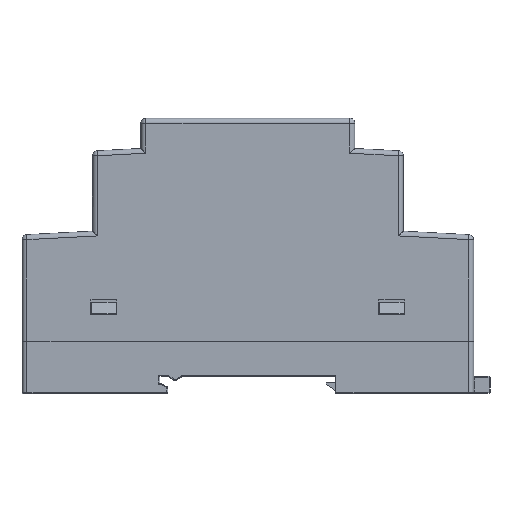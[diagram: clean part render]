
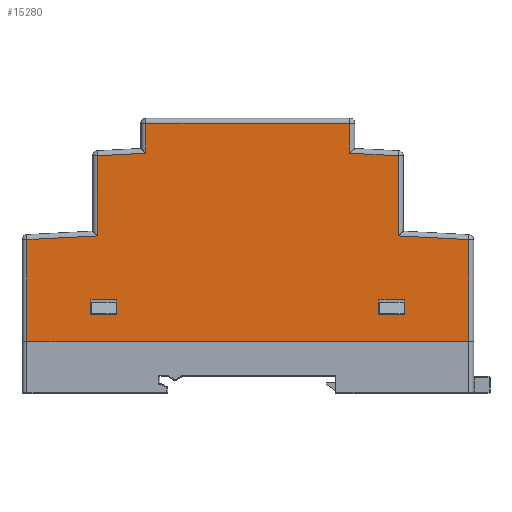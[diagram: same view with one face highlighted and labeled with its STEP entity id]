
A CAD part, left-side view. The second image highlights one B-rep face of the part: STEP entity #15280.
In plain terms, the highlighted planar face has unit normal (-1, 0, 0).
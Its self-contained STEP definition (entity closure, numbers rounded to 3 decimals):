
#8173=DIRECTION('',(0.,0.,-1.));
#8174=VECTOR('',#8173,89.);
#8175=CARTESIAN_POINT('',(-18.,0.,44.5));
#8176=LINE('',#8175,#8174);
#8180=DIRECTION('',(0.,0.052,0.999));
#8181=VECTOR('',#8180,14.219);
#8182=CARTESIAN_POINT('',(-18.,20.551,-44.5));
#8183=LINE('',#8182,#8181);
#8187=DIRECTION('',(0.,0.052,0.999));
#8188=VECTOR('',#8187,9.763);
#8189=CARTESIAN_POINT('',(-18.,37.451,-30.3));
#8190=LINE('',#8189,#8188);
#8194=DIRECTION('',(0.,-0.052,0.999));
#8195=VECTOR('',#8194,9.763);
#8196=CARTESIAN_POINT('',(-18.,37.962,20.55));
#8197=LINE('',#8196,#8195);
#8201=DIRECTION('',(0.,-0.052,0.999));
#8202=VECTOR('',#8201,14.219);
#8203=CARTESIAN_POINT('',(-18.,21.295,30.3));
#8204=LINE('',#8203,#8202);
#8208=DIRECTION('',(0.,0.,-1.));
#8209=VECTOR('',#8208,5.2);
#8210=CARTESIAN_POINT('',(-18.,8.4,31.6));
#8211=LINE('',#8210,#8209);
#8215=DIRECTION('',(0.,-1.,0.));
#8216=VECTOR('',#8215,3.);
#8217=CARTESIAN_POINT('',(-18.,8.4,26.4));
#8218=LINE('',#8217,#8216);
#8222=DIRECTION('',(0.,0.,1.));
#8223=VECTOR('',#8222,5.2);
#8224=CARTESIAN_POINT('',(-18.,5.4,26.4));
#8225=LINE('',#8224,#8223);
#8229=DIRECTION('',(0.,1.,0.));
#8230=VECTOR('',#8229,3.);
#8231=CARTESIAN_POINT('',(-18.,5.4,31.6));
#8232=LINE('',#8231,#8230);
#8236=DIRECTION('',(0.,0.,1.));
#8237=VECTOR('',#8236,5.2);
#8238=CARTESIAN_POINT('',(-18.,5.4,-31.6));
#8239=LINE('',#8238,#8237);
#8243=DIRECTION('',(0.,1.,0.));
#8244=VECTOR('',#8243,3.);
#8245=CARTESIAN_POINT('',(-18.,5.4,-26.4));
#8246=LINE('',#8245,#8244);
#8250=DIRECTION('',(0.,0.,-1.));
#8251=VECTOR('',#8250,5.2);
#8252=CARTESIAN_POINT('',(-18.,8.4,-26.4));
#8253=LINE('',#8252,#8251);
#8257=DIRECTION('',(0.,-1.,0.));
#8258=VECTOR('',#8257,3.);
#8259=CARTESIAN_POINT('',(-18.,8.4,-31.6));
#8260=LINE('',#8259,#8258);
#8271=DIRECTION('',(0.,1.,0.));
#8272=VECTOR('',#8271,20.551);
#8273=CARTESIAN_POINT('',(-18.,0.,44.5));
#8274=LINE('',#8273,#8272);
#8943=DIRECTION('',(0.,-1.,0.));
#8944=VECTOR('',#8943,20.551);
#8945=CARTESIAN_POINT('',(-18.,20.551,-44.5));
#8946=LINE('',#8945,#8944);
#10978=DIRECTION('',(0.,1.,0.));
#10979=VECTOR('',#10978,16.156);
#10980=CARTESIAN_POINT('',(-18.,21.295,30.3));
#10981=LINE('',#10980,#10979);
#11016=DIRECTION('',(0.,1.,0.));
#11017=VECTOR('',#11016,6.038);
#11018=CARTESIAN_POINT('',(-18.,37.962,20.55));
#11019=LINE('',#11018,#11017);
#11067=DIRECTION('',(0.,0.,-1.));
#11068=VECTOR('',#11067,41.1);
#11069=CARTESIAN_POINT('',(-18.,44.,20.55));
#11070=LINE('',#11069,#11068);
#11112=DIRECTION('',(0.,-1.,0.));
#11113=VECTOR('',#11112,6.038);
#11114=CARTESIAN_POINT('',(-18.,44.,-20.55));
#11115=LINE('',#11114,#11113);
#11241=DIRECTION('',(0.,-1.,0.));
#11242=VECTOR('',#11241,16.156);
#11243=CARTESIAN_POINT('',(-18.,37.451,-30.3));
#11244=LINE('',#11243,#11242);
#14179=CARTESIAN_POINT('',(-18.,0.,44.5));
#14180=CARTESIAN_POINT('',(-18.,20.551,44.5));
#14181=VERTEX_POINT('',#14179);
#14182=VERTEX_POINT('',#14180);
#14183=CARTESIAN_POINT('',(-18.,0.,-44.5));
#14184=VERTEX_POINT('',#14183);
#14185=CARTESIAN_POINT('',(-18.,20.551,-44.5));
#14186=VERTEX_POINT('',#14185);
#14187=CARTESIAN_POINT('',(-18.,21.295,-30.3));
#14188=VERTEX_POINT('',#14187);
#14189=CARTESIAN_POINT('',(-18.,37.451,-30.3));
#14190=VERTEX_POINT('',#14189);
#14191=CARTESIAN_POINT('',(-18.,37.962,-20.55));
#14192=VERTEX_POINT('',#14191);
#14193=CARTESIAN_POINT('',(-18.,44.,-20.55));
#14194=VERTEX_POINT('',#14193);
#14195=CARTESIAN_POINT('',(-18.,44.,20.55));
#14196=VERTEX_POINT('',#14195);
#14197=CARTESIAN_POINT('',(-18.,37.962,20.55));
#14198=VERTEX_POINT('',#14197);
#14199=CARTESIAN_POINT('',(-18.,37.451,30.3));
#14200=VERTEX_POINT('',#14199);
#14201=CARTESIAN_POINT('',(-18.,21.295,30.3));
#14202=VERTEX_POINT('',#14201);
#14203=CARTESIAN_POINT('',(-18.,8.4,31.6));
#14204=CARTESIAN_POINT('',(-18.,8.4,26.4));
#14205=VERTEX_POINT('',#14203);
#14206=VERTEX_POINT('',#14204);
#14207=CARTESIAN_POINT('',(-18.,5.4,26.4));
#14208=VERTEX_POINT('',#14207);
#14209=CARTESIAN_POINT('',(-18.,5.4,31.6));
#14210=VERTEX_POINT('',#14209);
#14211=CARTESIAN_POINT('',(-18.,5.4,-31.6));
#14212=CARTESIAN_POINT('',(-18.,5.4,-26.4));
#14213=VERTEX_POINT('',#14211);
#14214=VERTEX_POINT('',#14212);
#14215=CARTESIAN_POINT('',(-18.,8.4,-26.4));
#14216=VERTEX_POINT('',#14215);
#14217=CARTESIAN_POINT('',(-18.,8.4,-31.6));
#14218=VERTEX_POINT('',#14217);
#15229=CARTESIAN_POINT('',(-18.,0.,0.));
#15230=DIRECTION('',(1.,0.,0.));
#15231=DIRECTION('',(0.,0.,-1.));
#15232=AXIS2_PLACEMENT_3D('',#15229,#15230,#15231);
#15233=PLANE('',#15232);
#15235=ORIENTED_EDGE('',*,*,#15234,.F.);
#15237=ORIENTED_EDGE('',*,*,#15236,.T.);
#15239=ORIENTED_EDGE('',*,*,#15238,.F.);
#15241=ORIENTED_EDGE('',*,*,#15240,.T.);
#15243=ORIENTED_EDGE('',*,*,#15242,.F.);
#15245=ORIENTED_EDGE('',*,*,#15244,.T.);
#15247=ORIENTED_EDGE('',*,*,#15246,.F.);
#15249=ORIENTED_EDGE('',*,*,#15248,.F.);
#15251=ORIENTED_EDGE('',*,*,#15250,.F.);
#15253=ORIENTED_EDGE('',*,*,#15252,.T.);
#15255=ORIENTED_EDGE('',*,*,#15254,.F.);
#15257=ORIENTED_EDGE('',*,*,#15256,.T.);
#15258=EDGE_LOOP('',(#15235,#15237,#15239,#15241,#15243,#15245,#15247,#15249,
#15251,#15253,#15255,#15257));
#15259=FACE_OUTER_BOUND('',#15258,.F.);
#15261=ORIENTED_EDGE('',*,*,#15260,.T.);
#15263=ORIENTED_EDGE('',*,*,#15262,.T.);
#15265=ORIENTED_EDGE('',*,*,#15264,.T.);
#15267=ORIENTED_EDGE('',*,*,#15266,.T.);
#15268=EDGE_LOOP('',(#15261,#15263,#15265,#15267));
#15269=FACE_BOUND('',#15268,.F.);
#15271=ORIENTED_EDGE('',*,*,#15270,.T.);
#15273=ORIENTED_EDGE('',*,*,#15272,.T.);
#15275=ORIENTED_EDGE('',*,*,#15274,.T.);
#15277=ORIENTED_EDGE('',*,*,#15276,.T.);
#15278=EDGE_LOOP('',(#15271,#15273,#15275,#15277));
#15279=FACE_BOUND('',#15278,.F.);
#15234=EDGE_CURVE('',#14181,#14182,#8274,.T.);
#15236=EDGE_CURVE('',#14181,#14184,#8176,.T.);
#15238=EDGE_CURVE('',#14186,#14184,#8946,.T.);
#15240=EDGE_CURVE('',#14186,#14188,#8183,.T.);
#15242=EDGE_CURVE('',#14190,#14188,#11244,.T.);
#15244=EDGE_CURVE('',#14190,#14192,#8190,.T.);
#15246=EDGE_CURVE('',#14194,#14192,#11115,.T.);
#15248=EDGE_CURVE('',#14196,#14194,#11070,.T.);
#15250=EDGE_CURVE('',#14198,#14196,#11019,.T.);
#15252=EDGE_CURVE('',#14198,#14200,#8197,.T.);
#15254=EDGE_CURVE('',#14202,#14200,#10981,.T.);
#15256=EDGE_CURVE('',#14202,#14182,#8204,.T.);
#15260=EDGE_CURVE('',#14205,#14206,#8211,.T.);
#15262=EDGE_CURVE('',#14206,#14208,#8218,.T.);
#15264=EDGE_CURVE('',#14208,#14210,#8225,.T.);
#15266=EDGE_CURVE('',#14210,#14205,#8232,.T.);
#15270=EDGE_CURVE('',#14213,#14214,#8239,.T.);
#15272=EDGE_CURVE('',#14214,#14216,#8246,.T.);
#15274=EDGE_CURVE('',#14216,#14218,#8253,.T.);
#15276=EDGE_CURVE('',#14218,#14213,#8260,.T.);
#15280=ADVANCED_FACE('',(#15259,#15269,#15279),#15233,.F.);
